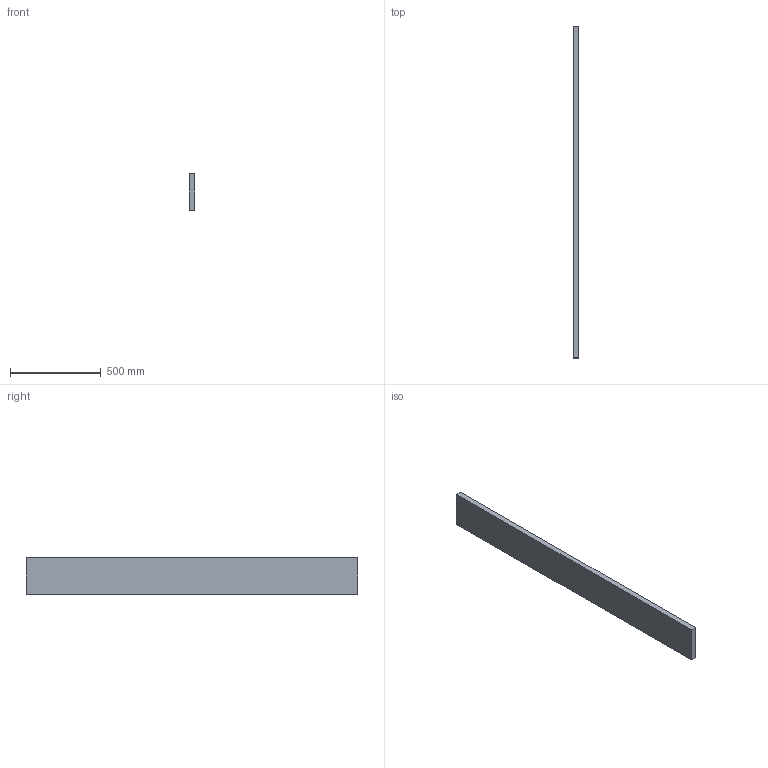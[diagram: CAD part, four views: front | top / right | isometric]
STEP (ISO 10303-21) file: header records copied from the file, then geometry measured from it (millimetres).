
FILE_DESCRIPTION(/* description */ (''),/* implementation_level */ '2;1');
FILE_NAME(/* name */ 'SM_Baffle1.2x8x72',/* time_stamp */ '2024-10-15T11:56:40-05:00',/* author */ (''),/* organization */ (''),/* preprocessor_version */ 'ST-DEVELOPER v19.2',/* originating_system */ 'Rhino 8.4',/* authorisation */ '');
FILE_SCHEMA (('CONFIG_CONTROL_DESIGN'));
Length unit declared in the file: inch
Products named in the file (1): Document
Bounding box: 30.48 x 1828.8 x 203.2 mm (x, y, z)
Volume: 11326738.6 mm3; surface area: 867095 mm2
Topology: 1 solids, 1 shells, 6 faces, 12 edges, 8 vertices
Faces by surface type: plane 6
Entity records: 226 total; most frequent: CARTESIAN_POINT 40, ORIENTED_EDGE 24, EDGE_CURVE 12, B_SPLINE_CURVE_WITH_KNOTS 12, DIRECTION 10, VERTEX_POINT 8, AXIS2_PLACEMENT_3D 8, ORGANIZATION 7
